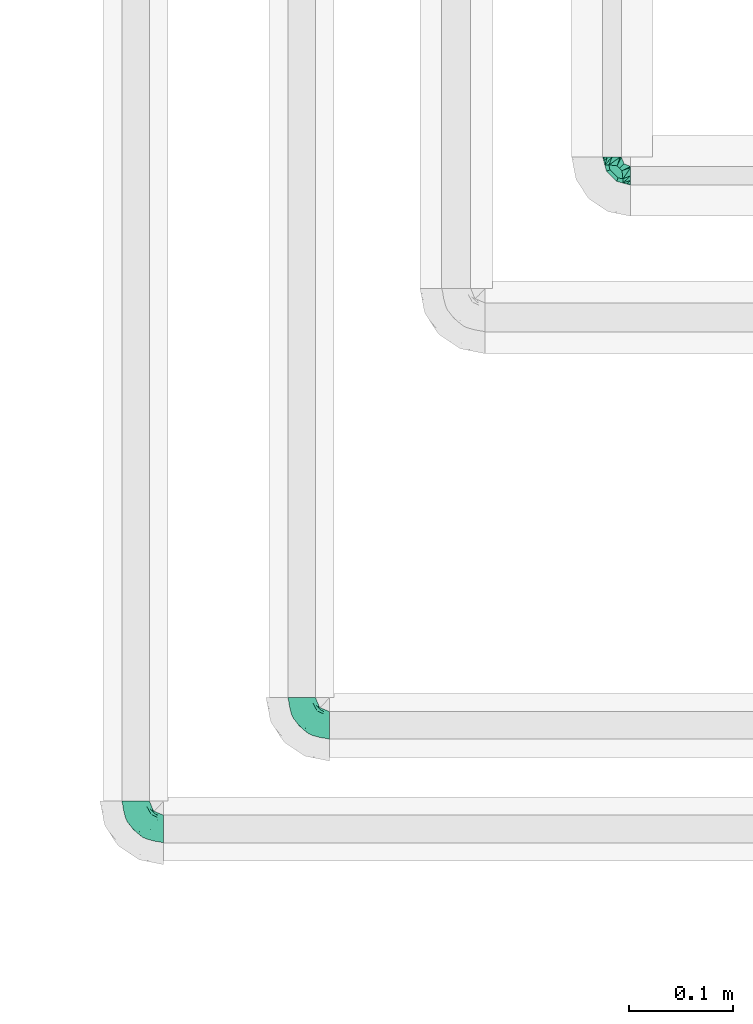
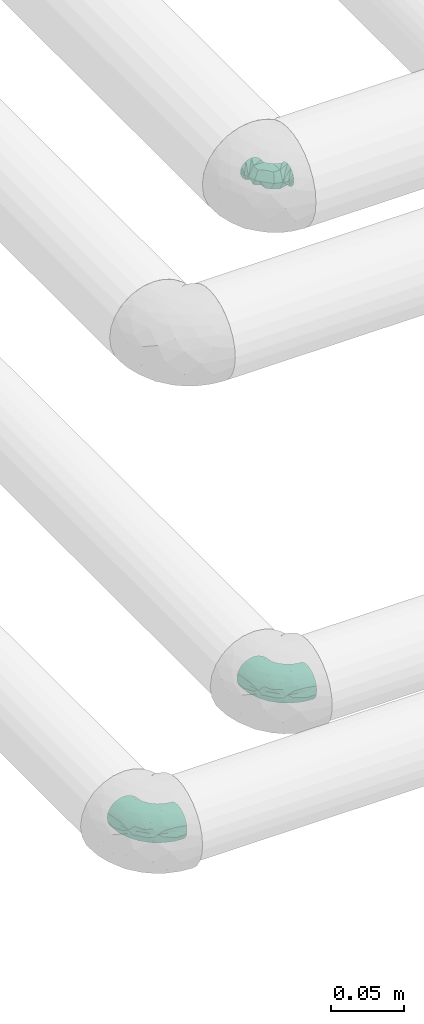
# One storey, part 40 of 83: 3 flow fittings.
"""IFC2X3 building model written with IfcOpenShell, lengths in millimetres."""

from ifc_helpers import new_model, entity, si_unit, converted_unit, derived_unit, direction, frame, origin_with_axes, place, context, subcontext, project, spatial, open_shell, surface_model, source, transform, mapped, type_object, element, save


model = new_model("IFC2X3")

# Units and contexts
model_context = context("Model", 3, precision=0.01, world=frame((0.0, 4.29681676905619e-09, 0.0)), true_north=direction((4.01073788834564e-13, 1.0)))
plan_context = context("Plan", 3, precision=0.01, world=frame((0.0, 4.29681676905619e-09, 0.0)), true_north=direction((4.01073788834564e-13, 1.0)))
body_context = subcontext(model_context, "Body", "Model", "MODEL_VIEW")
ifc_project = project(units=[converted_unit("PLANEANGLEUNIT", "DEGREE", entity("IfcPositiveLengthMeasure", 0.0174532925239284), si_unit("PLANEANGLEUNIT", "RADIAN"), dimensions=[0, 0, 0, 0, 0, 0, 0]), si_unit("AREAUNIT", "SQUARE_METRE"), si_unit("LENGTHUNIT", "METRE", prefix="MILLI"), si_unit("MASSUNIT", "GRAM", prefix="KILO"), si_unit("POWERUNIT", "WATT"), si_unit("PRESSUREUNIT", "PASCAL"), si_unit("FORCEUNIT", "NEWTON", prefix="KILO"), si_unit("ELECTRICVOLTAGEUNIT", "VOLT"), si_unit("ELECTRICCURRENTUNIT", "AMPERE"), si_unit("THERMODYNAMICTEMPERATUREUNIT", "DEGREE_CELSIUS"), si_unit("TIMEUNIT", "SECOND"), si_unit("VOLUMEUNIT", "CUBIC_METRE"), derived_unit("LINEARVELOCITYUNIT", [(si_unit("LENGTHUNIT", "METRE"), 1), (si_unit("TIMEUNIT", "SECOND"), -1)]), derived_unit("VOLUMETRICFLOWRATEUNIT", [(si_unit("VOLUMEUNIT", "CUBIC_METRE"), 1), (si_unit("TIMEUNIT", "SECOND"), -1)]), derived_unit("THERMALTRANSMITTANCEUNIT", [(si_unit("POWERUNIT", "WATT"), 1), (si_unit("THERMODYNAMICTEMPERATUREUNIT", "KELVIN"), -1), (si_unit("AREAUNIT", "SQUARE_METRE"), -1)]), derived_unit("SOUNDPRESSUREUNIT", [(si_unit("PRESSUREUNIT", "PASCAL"), 1)])], contexts=[model_context, plan_context])

# Site, building, storey
site_placement = place(None, frame((0.0, -4.29681676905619e-09, 0.0), z_axis=(0.0, 0.0, 1.0), x_axis=(1.0, 0.0, 0.0)))
site = spatial("IfcSite", under=ifc_project, at=site_placement, Name="ENGM", CompositionType="ELEMENT")
building_placement = place(site_placement, frame((0.0, 4.29681676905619e-09, 0.0), z_axis=(0.0, 0.0, 1.0), x_axis=(1.0, 0.0, 0.0)))
building = spatial("IfcBuilding", under=site, at=building_placement, Name="TI", CompositionType="ELEMENT")
storey_placement = place(building_placement, frame((0.0, 0.0, 204000.0), z_axis=(0.0, 0.0, 1.0), x_axis=(1.0, 0.0, 0.0)))
storey = spatial("IfcBuildingStorey", under=building, at=storey_placement, Name="Nivå D", CompositionType="ELEMENT", Elevation=204000.0)

# Flow fittings
pipe_fitting_type_1 = type_object("IfcPipeFittingType", Name="magi_pipe_fe_elbow_short_001", PredefinedType="BEND")
shared_shape_1 = source(origin_with_axes(), body_context, "Body", "SurfaceModel", [
    surface_model("IfcShellBasedSurfaceModel", [(-26.8, 3.46818, -12.94341), (-26.8, 0.0, -13.4), (-26.8, 9.47523, -9.47523), (-26.8, 6.7, -11.60474), (-26.8, 12.94341, -3.46818), (-26.8, 11.60474, -6.7), (-26.8, -6.7, 11.60474), (-26.8, -12.94341, -3.46818), (-26.8, -9.47523, -9.47523), (-26.8, -6.7, -11.60474), (-26.8, -3.46818, -12.94341), (-26.8, -11.60474, -6.7), (-26.8, -13.4, 0.0), (-26.8, 9.47523, 9.47523), (-26.8, 12.94341, 3.46818), (-26.8, 11.60474, 6.7), (-26.8, 3.46818, 12.94341), (-26.8, 6.7, 11.60474), (-26.8, -11.60474, 6.7), (-26.8, -9.47523, 9.47523), (-26.8, -12.94341, 3.46818), (-26.8, -3.46818, 12.94341), (-26.8, 0.0, 13.4), (-26.8, 13.4, 0.0), (-9.47523, 26.8, -9.47523), (0.0, 26.8, -13.4), (-3.46818, 26.8, -12.94341), (-6.7, 26.8, -11.60474), (-11.60474, 26.8, -6.7), (-12.94341, 26.8, -3.46818), (12.94341, 26.8, -3.46818), (6.7, 26.8, 11.60474), (6.7, 26.8, -11.60474), (9.47523, 26.8, -9.47523), (3.46818, 26.8, -12.94341), (11.60474, 26.8, -6.7), (13.4, 26.8, 0.0), (-12.94341, 26.8, 3.46818), (-9.47523, 26.8, 9.47523), (-11.60474, 26.8, 6.7), (-6.7, 26.8, 11.60474), (-3.46818, 26.8, 12.94341), (12.94341, 26.8, 3.46818), (9.47523, 26.8, 9.47523), (11.60474, 26.8, 6.7), (3.46818, 26.8, 12.94341), (0.0, 26.8, 13.4), (-13.4, 26.8, 0.0), (-17.94383, -11.72186, 4.19396), (-19.61933, -10.40522, 7.51874), (-14.00394, -9.97131, 0.0), (-10.88146, -9.75217, 2.96415), (5.6402, 4.14256, 4.06277), (2.9355, 3.86758, 7.99817), (-0.16552, -0.70254, 6.90229), (-11.69279, -8.47867, 6.74741), (-3.60975, -5.23517, 4.12915), (-20.40197, -11.68565, 0.0), (6.07727, 10.7767, 9.16668), (7.71917, 17.5318, 9.98024), (3.23022, 10.34855, 11.14395), (-17.5318, -7.71917, 9.98024), (-19.6814, -5.06542, 12.05518), (-20.47091, -1.77513, 13.17083), (-18.76435, 2.05404, 13.37716), (-10.34855, -3.23022, 11.14395), (-13.34095, -0.12025, 12.98799), (-20.6562, 5.25542, 12.65822), (-21.01515, 11.15223, 8.78653), (-19.1981, 14.0055, 6.12639), (-23.45804, 12.58298, 5.55254), (-13.79572, 19.62699, 6.0655), (-4.65712, 13.17755, 13.37596), (-9.92557, 9.92557, 13.07441), (-7.97904, 5.85569, 13.33097), (-14.12498, 14.96497, 9.49183), (-23.18377, 8.11481, 10.91864), (-3.49778, 8.97497, 13.15743), (-6.65819, 2.45826, 12.5129), (-1.36893, 7.23965, 12.31444), (-22.3163, 13.71444, 3.37662), (-20.76788, 15.89859, 0.0), (-5.00198, 23.11411, 12.55149), (-1.83653, 20.04451, 13.36709), (5.06542, 19.6814, 12.05518), (-4.60225, -3.19632, 8.30444), (-2.39362, 2.39362, 10.95564), (1.77513, 20.47091, 13.17083), (10.40522, 19.61933, 7.51874), (8.47867, 11.69279, 6.74741), (11.72186, 17.94383, 4.19396), (-10.7767, -6.07727, 9.16668), (-14.71477, 20.20527, 3.11661), (-18.32912, 15.92283, 3.19527), (9.75217, 10.88146, 2.96415), (9.97131, 14.00394, 0.0), (11.68565, 20.40197, 0.0), (-17.32477, 17.32477, 0.0), (8.01422, 6.7, 0.0), (-11.0099, 17.80242, 10.25412), (-8.46783, 20.75346, 11.10693), (-11.06207, 21.36651, 8.74797), (-10.13559, 14.48567, 11.94159), (-5.79525, 18.15733, 12.76163), (-14.31139, 12.02432, 11.13575), (-6.7, -8.01422, 0.0), (-14.72492, 5.73985, 13.1602), (-13.14892, 3.28357, 13.39428), (-14.24576, 9.09225, 12.39421), (-7.80572, 13.90987, 12.83655), (0.12025, 13.34095, 12.98799), (-18.45241, 9.09615, 11.28418), (-1.02036, 0.84565, 9.15855), (-3.66591, -4.13183, 6.30134), (-3.02144, -4.33567, 0.0), (1.56761, -1.1228, 3.23127), (-15.89859, 20.76788, 0.0), (4.33567, 3.02144, 0.0), (0.65711, -0.65711, 0.0), (-21.21323, 1.69434, -13.35639), (-11.59215, 19.61477, -8.94181), (-19.9553, -12.05444, -4.41231), (-20.61911, 5.26132, -12.65979), (-18.29002, 15.89425, -3.37935), (-10.94714, -3.38176, -11.24231), (-11.6358, -0.16715, -12.74497), (-5.38395, -0.22423, -10.97991), (-19.45447, 8.78609, -11.20697), (-21.18665, 11.10723, -8.76769), (8.05635, 19.80434, -10.14754), (-16.16073, 12.27967, -10.10626), (-10.65974, -9.81032, -2.24682), (-4.63434, -6.26604, -3.21731), (-12.41035, 15.57424, -10.31822), (-9.54276, 16.38525, -11.6371), (-12.38435, 12.38435, -11.76567), (-1.18054, -2.52878, -5.66699), (1.17703, 2.36499, -8.51656), (4.94456, 3.94062, -5.27361), (-13.23013, 7.7548, -12.95755), (-18.92609, -10.30887, -7.4546), (-19.80434, -8.05635, -10.14754), (-5.46999, 19.49566, -12.70683), (12.05444, 19.9553, -4.41231), (-22.63124, -5.28269, -12.19553), (-11.57403, -7.91736, -7.4927), (-10.00514, -5.4662, -9.37392), (0.56412, 6.29454, -11.17498), (0.16715, 11.6358, -12.74497), (2.76952, 11.43973, -11.70622), (-22.71135, 13.83144, -2.294), (-13.13887, 21.26515, -5.84046), (-14.02683, 21.74629, -2.98452), (10.30887, 18.92609, -7.4546), (-4.73052, 4.73052, -12.6532), (-16.28385, 15.93209, -6.57302), (-1.69434, 21.21323, -13.35639), (-8.4106, 21.03687, -11.08508), (1.68957, 19.74249, -13.15499), (5.28269, 22.63124, -12.19553), (-19.74249, -1.68957, -13.15499), (-16.96978, -4.62448, -11.91765), (-3.16773, 14.76219, -13.39711), (-7.24575, 7.81916, -13.39239), (-7.92886, 12.7032, -13.00116), (-6.57993, -6.26304, -6.05124), (9.46363, 9.95483, -2.39006), (6.59847, 4.89531, -2.6225), (0.29079, -2.47661, -2.876), (-21.42347, 13.17132, -5.65321), (9.35918, 11.66841, -5.08525), (8.33374, 12.94014, -7.69724), (5.4662, 10.00514, -9.37392), (4.62448, 16.96978, -11.91765), (-3.89324, -2.60816, -8.35445), (5.97121, 7.49007, -7.29975), (-14.76219, 3.16773, -13.39711), (-15.36238, 22.06238, 0.0), (-11.66841, -9.35918, -5.08525), (3.63632, 1.19488, -3.35093), (-14.94382, 15.17624, -8.6945)], [open_shell([[[0, 1, 2]], [[3, 0, 2]], [[4, 5, 2]], [[1, 4, 2]], [[6, 1, 7]], [[8, 7, 9]], [[1, 10, 9]], [[11, 7, 8]], [[9, 7, 1]], [[12, 6, 7]], [[4, 1, 6]], [[13, 14, 4]], [[15, 14, 13]], [[16, 17, 13]], [[13, 4, 16]], [[4, 6, 16]], [[18, 19, 20]], [[19, 12, 20]], [[6, 21, 16]], [[19, 6, 12]], [[16, 21, 22]], [[23, 4, 14]], [[24, 25, 26]], [[24, 26, 27]], [[24, 28, 29]], [[24, 29, 25]], [[30, 25, 31]], [[32, 30, 33]], [[32, 34, 25]], [[33, 30, 35]], [[25, 30, 32]], [[30, 31, 36]], [[31, 25, 29]], [[29, 37, 38]], [[38, 37, 39]], [[38, 40, 41]], [[41, 29, 38]], [[41, 31, 29]], [[42, 43, 44]], [[42, 36, 43]], [[41, 45, 31]], [[36, 31, 43]], [[46, 45, 41]], [[37, 29, 47]], [[48, 49, 18]], [[48, 50, 51]], [[52, 53, 54]], [[55, 51, 56]], [[49, 19, 18]], [[57, 48, 20]], [[58, 59, 60]], [[61, 6, 19]], [[61, 62, 6]], [[22, 63, 64]], [[62, 65, 66]], [[59, 43, 31]], [[22, 21, 63]], [[67, 17, 16]], [[68, 69, 70]], [[39, 37, 71]], [[72, 73, 74]], [[69, 68, 75]], [[22, 64, 16]], [[17, 76, 13]], [[15, 13, 68]], [[77, 78, 79]], [[80, 81, 23]], [[41, 82, 83]], [[31, 84, 59]], [[85, 86, 65]], [[45, 46, 87]], [[88, 89, 90]], [[91, 65, 61]], [[46, 41, 83]], [[71, 92, 93]], [[90, 94, 95]], [[84, 31, 45]], [[88, 90, 44]], [[59, 84, 60]], [[42, 44, 90]], [[75, 71, 69]], [[6, 62, 21]], [[90, 96, 42]], [[97, 81, 93]], [[94, 98, 95]], [[92, 97, 93]], [[50, 48, 57]], [[70, 14, 15]], [[99, 100, 101]], [[38, 101, 100]], [[40, 38, 100]], [[102, 103, 100]], [[103, 72, 83]], [[82, 100, 103]], [[82, 41, 40]], [[99, 104, 102]], [[23, 14, 80]], [[67, 16, 64]], [[51, 50, 105]], [[48, 18, 20]], [[49, 55, 61]], [[44, 43, 88]], [[89, 52, 94]], [[106, 107, 74]], [[108, 67, 106]], [[38, 39, 101]], [[109, 102, 73]], [[103, 109, 72]], [[87, 83, 110]], [[76, 68, 13]], [[68, 111, 104]], [[65, 62, 61]], [[63, 62, 66]], [[91, 61, 55]], [[65, 86, 78]], [[87, 84, 45]], [[110, 79, 60]], [[110, 60, 84]], [[86, 112, 60]], [[55, 49, 48]], [[61, 19, 49]], [[43, 59, 88]], [[89, 88, 59]], [[106, 67, 64]], [[76, 67, 111]], [[53, 52, 89]], [[112, 86, 85]], [[56, 113, 55]], [[112, 54, 53]], [[58, 89, 59]], [[56, 51, 105]], [[114, 115, 56]], [[14, 70, 80]], [[69, 71, 93]], [[47, 116, 92]], [[92, 116, 97]], [[39, 71, 101]], [[75, 101, 71]], [[99, 102, 100]], [[108, 104, 111]], [[106, 74, 73]], [[110, 83, 72]], [[78, 74, 66]], [[72, 74, 77]], [[83, 87, 46]], [[84, 87, 110]], [[62, 63, 21]], [[64, 63, 66]], [[20, 12, 57]], [[96, 90, 95]], [[96, 36, 42]], [[115, 117, 52]], [[56, 105, 114]], [[55, 48, 51]], [[89, 94, 90]], [[52, 98, 94]], [[106, 64, 107]], [[108, 106, 73]], [[102, 108, 73]], [[67, 108, 111]], [[102, 104, 108]], [[68, 104, 75]], [[64, 66, 107]], [[66, 74, 107]], [[65, 78, 66]], [[79, 78, 86]], [[60, 79, 86]], [[77, 79, 110]], [[72, 77, 110]], [[78, 77, 74]], [[67, 76, 17]], [[68, 76, 111]], [[100, 82, 40]], [[83, 82, 103]], [[68, 70, 15]], [[80, 69, 93]], [[69, 80, 70]], [[80, 93, 81]], [[55, 85, 91]], [[85, 65, 91]], [[60, 53, 58]], [[53, 89, 58]], [[54, 112, 85]], [[60, 112, 53]], [[85, 113, 54]], [[113, 115, 54]], [[55, 113, 85]], [[115, 113, 56]], [[71, 37, 92]], [[115, 114, 118]], [[47, 92, 37]], [[101, 75, 99]], [[99, 75, 104]], [[72, 109, 73]], [[103, 102, 109]], [[54, 115, 52]], [[117, 115, 118]], [[117, 98, 52]], [[0, 119, 1]], [[28, 24, 120]], [[121, 57, 7]], [[3, 122, 0]], [[97, 123, 81]], [[124, 125, 126]], [[127, 2, 128]], [[33, 129, 32]], [[127, 128, 130]], [[131, 132, 105]], [[133, 134, 135]], [[127, 3, 2]], [[136, 137, 138]], [[139, 122, 127]], [[2, 5, 128]], [[11, 140, 121]], [[141, 140, 8]], [[26, 142, 27]], [[95, 143, 96]], [[144, 9, 10]], [[145, 141, 146]], [[30, 36, 96]], [[147, 148, 149]], [[140, 11, 8]], [[23, 81, 150]], [[130, 133, 135]], [[151, 152, 29]], [[153, 35, 143]], [[147, 154, 148]], [[29, 28, 151]], [[120, 155, 151]], [[33, 153, 129]], [[25, 156, 26]], [[26, 156, 142]], [[143, 35, 30]], [[24, 27, 157]], [[123, 152, 155]], [[158, 34, 159]], [[144, 160, 161]], [[122, 3, 127]], [[148, 162, 158]], [[157, 27, 142]], [[162, 163, 164]], [[159, 34, 32]], [[165, 136, 132]], [[35, 153, 33]], [[166, 98, 167]], [[160, 10, 1]], [[161, 160, 125]], [[95, 166, 143]], [[50, 131, 105]], [[121, 7, 11]], [[168, 114, 132]], [[150, 169, 4]], [[167, 98, 117]], [[34, 158, 25]], [[164, 142, 162]], [[133, 157, 134]], [[8, 9, 141]], [[165, 145, 146]], [[170, 171, 153]], [[129, 172, 173]], [[126, 137, 174]], [[175, 137, 172]], [[148, 158, 173]], [[156, 158, 162]], [[149, 172, 147]], [[148, 154, 163]], [[119, 160, 1]], [[176, 163, 125]], [[176, 125, 160]], [[125, 154, 126]], [[169, 128, 5]], [[127, 130, 135]], [[139, 127, 135]], [[119, 122, 176]], [[120, 151, 28]], [[152, 97, 177]], [[142, 164, 134]], [[120, 24, 157]], [[152, 47, 29]], [[81, 123, 150]], [[123, 155, 169]], [[152, 123, 97]], [[140, 178, 121]], [[121, 178, 131]], [[144, 141, 9]], [[146, 141, 161]], [[30, 96, 143]], [[170, 153, 143]], [[129, 153, 171]], [[159, 129, 173]], [[137, 147, 172]], [[126, 154, 147]], [[172, 171, 175]], [[174, 137, 136]], [[137, 126, 147]], [[126, 146, 124]], [[117, 118, 179]], [[179, 138, 167]], [[128, 169, 155]], [[5, 4, 169]], [[57, 121, 50]], [[57, 12, 7]], [[122, 119, 0]], [[160, 119, 176]], [[158, 156, 25]], [[142, 156, 162]], [[162, 148, 163]], [[139, 135, 164]], [[125, 163, 154]], [[139, 163, 176]], [[163, 139, 164]], [[122, 139, 176]], [[155, 180, 128]], [[180, 120, 133]], [[180, 133, 130]], [[157, 133, 120]], [[142, 134, 157]], [[164, 135, 134]], [[128, 180, 130]], [[120, 180, 155]], [[152, 151, 155]], [[47, 152, 177]], [[169, 150, 123]], [[23, 150, 4]], [[121, 131, 50]], [[178, 165, 132]], [[178, 132, 131]], [[168, 132, 136]], [[145, 165, 178]], [[174, 165, 146]], [[178, 140, 145]], [[141, 145, 140]], [[179, 136, 138]], [[170, 166, 167]], [[168, 179, 118]], [[170, 167, 138]], [[143, 166, 170]], [[95, 98, 166]], [[117, 179, 167]], [[136, 179, 168]], [[129, 159, 32]], [[158, 159, 173]], [[160, 144, 10]], [[141, 144, 161]], [[175, 170, 138]], [[129, 171, 172]], [[170, 175, 171]], [[137, 175, 138]], [[148, 173, 149]], [[172, 149, 173]], [[165, 174, 136]], [[126, 174, 146]], [[146, 161, 124]], [[125, 124, 161]], [[114, 168, 118]], [[114, 105, 132]]])]),
])
for number, where, z_axis, x_axis, name in (
    (1, (599571.9743, 691141.97914, 6220.0), (0.0, 0.0, 1.0), (0.0, -1.0, 0.0), "magi_pipe_fe_elbow_short_001"),
    (2, (599732.2743, 691241.97914, 6220.00010999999), (0.0, 0.0, 1.0), (0.0, -1.0, 0.0), "magi_pipe_fe_elbow_short_001"),
):
    element("IfcFlowFitting", number, at=place(storey_placement, frame(where, z_axis=z_axis, x_axis=x_axis)), inside=storey, type_object=pipe_fitting_type_1, Name=name, context=body_context, shape_type="MappedRepresentation", body=[
        mapped(shared_shape_1, transform((0.0, 0.0, 0.0), scale=1.0)),
    ])
pipe_fitting_type_2 = type_object("IfcPipeFittingType", Name="magi_pipe_cu_elbow_short_001", PredefinedType="BEND")
shared_shape_2 = source(origin_with_axes(), body_context, "Body", "SurfaceModel", [
    surface_model("IfcShellBasedSurfaceModel", [(-18.0, 4.5, -7.79423), (-18.0, 2.32937, -8.69333), (-18.0, 0.0, -9.0), (-18.0, -6.36396, -6.36396), (-18.0, 8.69333, -2.32937), (-18.0, 7.79423, -4.5), (-18.0, 6.36396, -6.36396), (-18.0, -4.5, -7.79423), (-18.0, -2.32937, -8.69333), (-18.0, -7.79423, -4.5), (-18.0, -8.69333, -2.32937), (-18.0, -9.0, 0.0), (-18.0, 8.69333, 2.32937), (-18.0, -7.79423, 4.5), (-18.0, 7.79423, 4.5), (-18.0, 6.36396, 6.36396), (-18.0, 2.32937, 8.69333), (-18.0, 4.5, 7.79423), (-18.0, 0.0, 9.0), (-18.0, -6.36396, 6.36396), (-18.0, -2.32937, 8.69333), (-18.0, -8.69333, 2.32937), (-18.0, -4.5, 7.79423), (-18.0, 9.0, 0.0), (0.0, 18.0, -9.0), (-2.32937, 18.0, -8.69333), (-4.5, 18.0, -7.79423), (6.36396, 18.0, -6.36396), (-6.36396, 18.0, -6.36396), (-7.79423, 18.0, -4.5), (-8.69333, 18.0, -2.32937), (9.0, 18.0, 0.0), (2.32937, 18.0, -8.69333), (4.5, 18.0, -7.79423), (8.69333, 18.0, -2.32937), (7.79423, 18.0, -4.5), (-8.69333, 18.0, 2.32937), (7.79423, 18.0, 4.5), (-6.36396, 18.0, 6.36396), (-7.79423, 18.0, 4.5), (-4.5, 18.0, 7.79423), (-2.32937, 18.0, 8.69333), (0.0, 18.0, 9.0), (2.32937, 18.0, 8.69333), (6.36396, 18.0, 6.36396), (8.69333, 18.0, 2.32937), (4.5, 18.0, 7.79423), (-9.0, 18.0, 0.0), (-16.09014, -8.48825, 0.0), (-10.51068, -2.97249, 7.92278), (-10.36056, -6.95302, 0.0), (-4.5, -5.38269, 0.0), (0.44134, -0.44134, 0.0), (2.91201, 2.02933, 0.0), (-2.70211, 1.18586, 7.65564), (-2.02933, -2.91201, 0.0), (-14.18028, -7.97651, 0.0), (-7.11648, 7.11648, 8.61373), (-4.93977, 9.63211, 8.64898), (2.97249, 10.51068, 7.92278), (2.01286, 5.84889, 7.1903), (5.38269, 4.5, 0.0), (-5.73616, -2.07922, 7.10204), (8.48825, 16.09014, 0.0), (7.97651, 14.18028, 0.0), (-9.63211, 4.93977, 8.64898), (-10.31802, 14.81802, 0.0), (-14.81802, 10.31802, 0.0), (-11.63604, 11.63604, 0.0), (6.95302, 10.36056, 0.0), (-10.51068, -2.97249, -7.92278), (-4.93977, 9.63211, -8.64898), (0.8585, 4.1248, -7.1903), (-2.68792, 2.14037, -8.03971), (2.97249, 10.51068, -7.92278), (-13.67048, 7.29638, -6.27272), (-8.50355, 2.18787, -8.98901), (-9.83427, 8.11209, -7.36254)], [open_shell([[[0, 1, 2]], [[0, 2, 3]], [[4, 5, 6]], [[0, 4, 6]], [[4, 0, 3]], [[7, 3, 8]], [[3, 2, 8]], [[9, 10, 3]], [[11, 3, 10]], [[3, 11, 4]], [[11, 12, 4]], [[13, 12, 11]], [[14, 12, 15]], [[16, 17, 15]], [[15, 12, 18]], [[16, 15, 18]], [[19, 20, 13]], [[13, 11, 21]], [[22, 20, 19]], [[18, 13, 20]], [[13, 18, 12]], [[23, 4, 12]], [[24, 25, 26]], [[27, 24, 26]], [[28, 29, 30]], [[28, 30, 26]], [[31, 26, 30]], [[32, 27, 33]], [[32, 24, 27]], [[27, 34, 35]], [[34, 27, 31]], [[26, 31, 27]], [[30, 36, 31]], [[31, 36, 37]], [[38, 36, 39]], [[38, 40, 41]], [[42, 36, 38]], [[42, 38, 41]], [[37, 43, 44]], [[45, 31, 37]], [[44, 43, 46]], [[43, 37, 42]], [[36, 42, 37]], [[36, 30, 47]], [[21, 48, 13]], [[49, 50, 51]], [[52, 53, 54]], [[54, 55, 52]], [[22, 19, 56]], [[13, 56, 19]], [[57, 54, 58]], [[22, 50, 20]], [[18, 20, 50]], [[59, 60, 61]], [[59, 58, 60]], [[55, 54, 62]], [[18, 50, 49]], [[18, 49, 16]], [[62, 49, 51]], [[62, 51, 55]], [[37, 63, 45]], [[49, 17, 16]], [[64, 63, 37]], [[12, 65, 23]], [[14, 15, 49]], [[54, 65, 62]], [[17, 49, 15]], [[58, 47, 66]], [[67, 57, 68]], [[53, 60, 54]], [[43, 42, 69]], [[69, 46, 43]], [[38, 59, 40]], [[41, 59, 42]], [[44, 46, 64]], [[68, 57, 66]], [[64, 46, 69]], [[61, 60, 53]], [[45, 63, 31]], [[59, 61, 69]], [[47, 58, 36]], [[22, 56, 50]], [[54, 57, 65]], [[49, 65, 14]], [[66, 57, 58]], [[64, 37, 44]], [[39, 36, 58]], [[14, 65, 12]], [[38, 39, 59]], [[21, 11, 48]], [[39, 58, 59]], [[48, 56, 13]], [[40, 59, 41]], [[59, 69, 42]], [[49, 62, 65]], [[57, 67, 65]], [[54, 60, 58]], [[67, 23, 65]], [[70, 50, 2]], [[71, 72, 73]], [[74, 71, 29]], [[70, 1, 0]], [[70, 51, 50]], [[34, 31, 63]], [[75, 6, 5]], [[75, 4, 23]], [[5, 4, 75]], [[51, 76, 55]], [[75, 23, 67]], [[70, 6, 75]], [[48, 11, 10]], [[7, 56, 3]], [[2, 50, 8]], [[51, 70, 76]], [[56, 7, 50]], [[7, 8, 50]], [[70, 2, 1]], [[66, 47, 71]], [[52, 72, 53]], [[6, 70, 0]], [[70, 75, 76]], [[73, 52, 55]], [[71, 68, 66]], [[61, 53, 72]], [[33, 64, 69]], [[30, 71, 47]], [[28, 74, 29]], [[56, 9, 3]], [[26, 25, 74]], [[63, 64, 35]], [[56, 48, 9]], [[26, 74, 28]], [[9, 48, 10]], [[24, 74, 25]], [[32, 69, 24]], [[29, 71, 30]], [[27, 64, 33]], [[69, 32, 33]], [[68, 71, 77]], [[74, 24, 69]], [[35, 34, 63]], [[61, 72, 74]], [[61, 74, 69]], [[67, 77, 75]], [[74, 72, 71]], [[35, 64, 27]], [[76, 77, 73]], [[75, 77, 76]], [[77, 71, 73]], [[55, 76, 73]], [[72, 52, 73]], [[77, 67, 68]]])]),
])
flow_fitting_placement = place(storey_placement, frame((600031.9743, 691772.72914, 6220.0), z_axis=(0.0, 0.0, 1.0), x_axis=(0.0, -1.0, 0.0)))
element("IfcFlowFitting", 3, at=flow_fitting_placement, inside=storey, type_object=pipe_fitting_type_2, Name="magi_pipe_cu_elbow_short_001", context=body_context, shape_type="MappedRepresentation", body=[
    mapped(shared_shape_2, transform((0.0, 0.0, 0.0), scale=1.0)),
])

save(model, "model.ifc")
